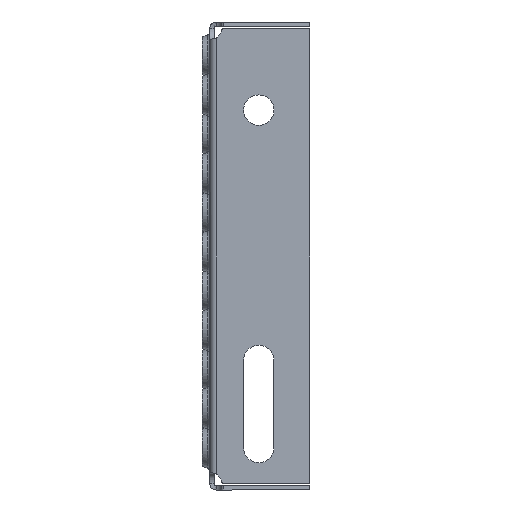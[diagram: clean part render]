
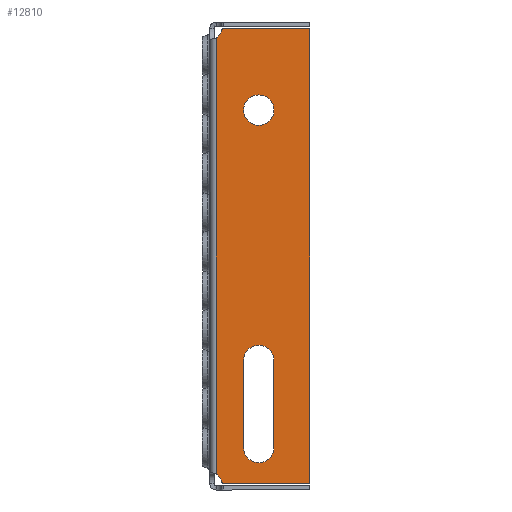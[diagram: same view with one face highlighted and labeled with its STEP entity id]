
A CAD part, left-side view. The second image highlights one B-rep face of the part: STEP entity #12810.
In plain terms, the highlighted planar face has unit normal (-1, 0, 0).
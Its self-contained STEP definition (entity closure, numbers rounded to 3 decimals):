
#101 = CARTESIAN_POINT ( 'NONE',  ( -200., -22.5, 60. ) ) ;
#159 = AXIS2_PLACEMENT_3D ( 'NONE', #18200, #6652, #20148 ) ;
#510 = FACE_BOUND ( 'NONE', #14512, .T. ) ;
#596 = CARTESIAN_POINT ( 'NONE',  ( -200., -46., -104.5 ) ) ;
#603 = DIRECTION ( 'NONE',  ( 0., 0., 1. ) ) ;
#613 = EDGE_CURVE ( 'NONE', #17825, #7904, #2272, .T. ) ;
#685 = CARTESIAN_POINT ( 'NONE',  ( -200., -6.416, -104.5 ) ) ;
#784 = ORIENTED_EDGE ( 'NONE', *, *, #14680, .T. ) ;
#1055 = DIRECTION ( 'NONE',  ( 0., 0., -1. ) ) ;
#1082 = CARTESIAN_POINT ( 'NONE',  ( -200., -22.5, 67. ) ) ;
#1495 = DIRECTION ( 'NONE',  ( -1., 0., 0. ) ) ;
#2272 = LINE ( 'NONE', #15796, #22158 ) ;
#2303 = LINE ( 'NONE', #14073, #11926 ) ;
#2377 = DIRECTION ( 'NONE',  ( 0., 0., 1. ) ) ;
#2950 = VERTEX_POINT ( 'NONE', #15874 ) ;
#3020 = EDGE_LOOP ( 'NONE', ( #22081 ) ) ;
#3025 = DIRECTION ( 'NONE',  ( 0., 0., -1. ) ) ;
#3088 = DIRECTION ( 'NONE',  ( 1., 0., 0. ) ) ;
#3739 = CARTESIAN_POINT ( 'NONE',  ( -200., -29.5, -88. ) ) ;
#4273 = DIRECTION ( 'NONE',  ( 0., 0., 1. ) ) ;
#4886 = EDGE_CURVE ( 'NONE', #17825, #21740, #24533, .T. ) ;
#4982 = PLANE ( 'NONE',  #18384 ) ;
#4986 = CIRCLE ( 'NONE', #159, 5. ) ;
#5186 = DIRECTION ( 'NONE',  ( -1., 0., 0. ) ) ;
#5261 = VERTEX_POINT ( 'NONE', #9244 ) ;
#5439 = CIRCLE ( 'NONE', #9070, 7. ) ;
#5528 = CARTESIAN_POINT ( 'NONE',  ( -200., -5.43, 103.667 ) ) ;
#5783 = CARTESIAN_POINT ( 'NONE',  ( -200., -15.5, -48. ) ) ;
#6002 = CARTESIAN_POINT ( 'NONE',  ( -200., -6.416, 103.5 ) ) ;
#6090 = ORIENTED_EDGE ( 'NONE', *, *, #8363, .F. ) ;
#6652 = DIRECTION ( 'NONE',  ( 1., 0., 0. ) ) ;
#6828 = EDGE_CURVE ( 'NONE', #24365, #2950, #18791, .T. ) ;
#7064 = ORIENTED_EDGE ( 'NONE', *, *, #613, .F. ) ;
#7159 = VECTOR ( 'NONE', #19099, 1000. ) ;
#7904 = VERTEX_POINT ( 'NONE', #24933 ) ;
#7935 = DIRECTION ( 'NONE',  ( 0., 0., 1. ) ) ;
#8096 = CARTESIAN_POINT ( 'NONE',  ( -200., -46., -104.5 ) ) ;
#8363 = EDGE_CURVE ( 'NONE', #22684, #24365, #5439, .T. ) ;
#8769 = DIRECTION ( 'NONE',  ( 1., 0., 0. ) ) ;
#9070 = AXIS2_PLACEMENT_3D ( 'NONE', #13004, #1495, #14952 ) ;
#9244 = CARTESIAN_POINT ( 'NONE',  ( -200., -6.416, 104.5 ) ) ;
#9658 = EDGE_CURVE ( 'NONE', #2950, #19589, #24054, .T. ) ;
#9767 = CARTESIAN_POINT ( 'NONE',  ( -200., -3., -100.17 ) ) ;
#9823 = EDGE_CURVE ( 'NONE', #17355, #5261, #21357, .T. ) ;
#10126 = FACE_OUTER_BOUND ( 'NONE', #18609, .T. ) ;
#10403 = LINE ( 'NONE', #8096, #11024 ) ;
#10646 = CIRCLE ( 'NONE', #22165, 1. ) ;
#10725 = VECTOR ( 'NONE', #17004, 1000. ) ;
#11015 = EDGE_CURVE ( 'NONE', #11319, #17952, #16438, .T. ) ;
#11024 = VECTOR ( 'NONE', #2377, 1000. ) ;
#11232 = EDGE_CURVE ( 'NONE', #17952, #17355, #10403, .T. ) ;
#11276 = CARTESIAN_POINT ( 'NONE',  ( -200., -5.43, -103.667 ) ) ;
#11319 = VERTEX_POINT ( 'NONE', #685 ) ;
#11632 = DIRECTION ( 'NONE',  ( 0., 0., -1. ) ) ;
#11926 = VECTOR ( 'NONE', #603, 1000. ) ;
#12590 = DIRECTION ( 'NONE',  ( -1., 0., 0. ) ) ;
#12810 = ADVANCED_FACE ( 'NONE', ( #10126, #24942, #510 ), #4982, .F. ) ;
#13004 = CARTESIAN_POINT ( 'NONE',  ( -200., -22.5, -48. ) ) ;
#13183 = EDGE_CURVE ( 'NONE', #19589, #22684, #2303, .T. ) ;
#13262 = EDGE_CURVE ( 'NONE', #24282, #7904, #4986, .T. ) ;
#13878 = ORIENTED_EDGE ( 'NONE', *, *, #11232, .T. ) ;
#13928 = AXIS2_PLACEMENT_3D ( 'NONE', #1082, #14558, #3025 ) ;
#14073 = CARTESIAN_POINT ( 'NONE',  ( -200., -29.5, -48. ) ) ;
#14267 = CARTESIAN_POINT ( 'NONE',  ( -200., -46., 104.5 ) ) ;
#14272 = CARTESIAN_POINT ( 'NONE',  ( -200., -29.5, -48. ) ) ;
#14462 = ORIENTED_EDGE ( 'NONE', *, *, #9823, .T. ) ;
#14512 = EDGE_LOOP ( 'NONE', ( #14539, #6090, #19726, #16997 ) ) ;
#14539 = ORIENTED_EDGE ( 'NONE', *, *, #6828, .F. ) ;
#14558 = DIRECTION ( 'NONE',  ( -1., 0., 0. ) ) ;
#14603 = CARTESIAN_POINT ( 'NONE',  ( -200., 0.5, -110.416 ) ) ;
#14620 = CARTESIAN_POINT ( 'NONE',  ( -200., -0.5, -104.5 ) ) ;
#14680 = EDGE_CURVE ( 'NONE', #21740, #11319, #10646, .T. ) ;
#14952 = DIRECTION ( 'NONE',  ( 0., 0., -1. ) ) ;
#15532 = ORIENTED_EDGE ( 'NONE', *, *, #11015, .T. ) ;
#15796 = CARTESIAN_POINT ( 'NONE',  ( -200., -3., -110.416 ) ) ;
#15874 = CARTESIAN_POINT ( 'NONE',  ( -200., -15.5, -88. ) ) ;
#15913 = ORIENTED_EDGE ( 'NONE', *, *, #4886, .T. ) ;
#16438 = LINE ( 'NONE', #18877, #10725 ) ;
#16532 = DIRECTION ( 'NONE',  ( 0., 0., -1. ) ) ;
#16724 = CARTESIAN_POINT ( 'NONE',  ( -200., -22.5, -88. ) ) ;
#16997 = ORIENTED_EDGE ( 'NONE', *, *, #9658, .F. ) ;
#17004 = DIRECTION ( 'NONE',  ( 0., -1., 0. ) ) ;
#17093 = CIRCLE ( 'NONE', #13928, 7. ) ;
#17355 = VERTEX_POINT ( 'NONE', #14267 ) ;
#17585 = VECTOR ( 'NONE', #11632, 1000. ) ;
#17825 = VERTEX_POINT ( 'NONE', #9767 ) ;
#17952 = VERTEX_POINT ( 'NONE', #596 ) ;
#18200 = CARTESIAN_POINT ( 'NONE',  ( -200., -0.5, 104.5 ) ) ;
#18384 = AXIS2_PLACEMENT_3D ( 'NONE', #14603, #8769, #18476 ) ;
#18476 = DIRECTION ( 'NONE',  ( 0., 0., -1. ) ) ;
#18609 = EDGE_LOOP ( 'NONE', ( #7064, #15913, #784, #15532, #13878, #14462, #21371, #19252 ) ) ;
#18679 = DIRECTION ( 'NONE',  ( 0., 0., -1. ) ) ;
#18791 = LINE ( 'NONE', #21258, #17585 ) ;
#18877 = CARTESIAN_POINT ( 'NONE',  ( -200., -6.416, -104.5 ) ) ;
#18966 = CIRCLE ( 'NONE', #21513, 1. ) ;
#19099 = DIRECTION ( 'NONE',  ( 0., 1., 0. ) ) ;
#19173 = VERTEX_POINT ( 'NONE', #101 ) ;
#19252 = ORIENTED_EDGE ( 'NONE', *, *, #13262, .T. ) ;
#19479 = DIRECTION ( 'NONE',  ( -1., 0., 0. ) ) ;
#19589 = VERTEX_POINT ( 'NONE', #3739 ) ;
#19726 = ORIENTED_EDGE ( 'NONE', *, *, #13183, .F. ) ;
#20148 = DIRECTION ( 'NONE',  ( 0., 0., -1. ) ) ;
#21258 = CARTESIAN_POINT ( 'NONE',  ( -200., -15.5, -48. ) ) ;
#21357 = LINE ( 'NONE', #24853, #7159 ) ;
#21371 = ORIENTED_EDGE ( 'NONE', *, *, #23142, .T. ) ;
#21513 = AXIS2_PLACEMENT_3D ( 'NONE', #6002, #19479, #7935 ) ;
#21717 = AXIS2_PLACEMENT_3D ( 'NONE', #16724, #5186, #18679 ) ;
#21740 = VERTEX_POINT ( 'NONE', #11276 ) ;
#22081 = ORIENTED_EDGE ( 'NONE', *, *, #24189, .F. ) ;
#22158 = VECTOR ( 'NONE', #4273, 1000. ) ;
#22165 = AXIS2_PLACEMENT_3D ( 'NONE', #24165, #12590, #1055 ) ;
#22684 = VERTEX_POINT ( 'NONE', #14272 ) ;
#23142 = EDGE_CURVE ( 'NONE', #5261, #24282, #18966, .T. ) ;
#24054 = CIRCLE ( 'NONE', #21717, 7. ) ;
#24165 = CARTESIAN_POINT ( 'NONE',  ( -200., -6.416, -103.5 ) ) ;
#24189 = EDGE_CURVE ( 'NONE', #19173, #19173, #17093, .T. ) ;
#24282 = VERTEX_POINT ( 'NONE', #5528 ) ;
#24365 = VERTEX_POINT ( 'NONE', #5783 ) ;
#24533 = CIRCLE ( 'NONE', #25026, 5. ) ;
#24853 = CARTESIAN_POINT ( 'NONE',  ( -200., -46., 104.5 ) ) ;
#24933 = CARTESIAN_POINT ( 'NONE',  ( -200., -3., 100.17 ) ) ;
#24942 = FACE_BOUND ( 'NONE', #3020, .T. ) ;
#25026 = AXIS2_PLACEMENT_3D ( 'NONE', #14620, #3088, #16532 ) ;
